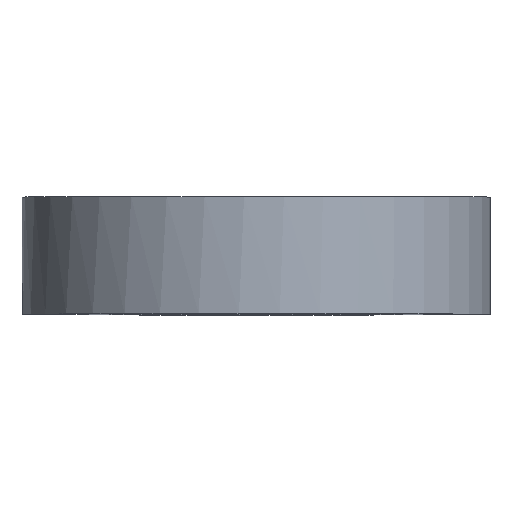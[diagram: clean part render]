
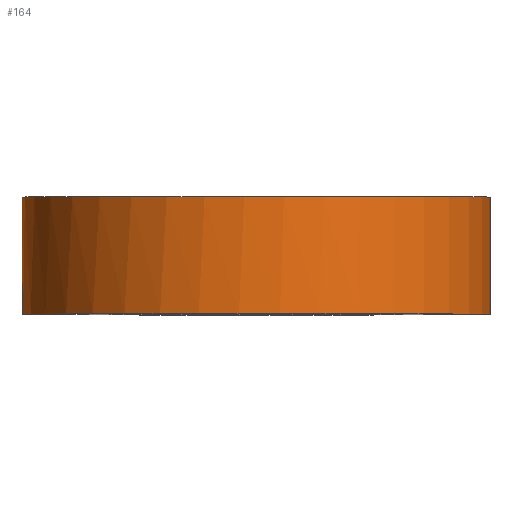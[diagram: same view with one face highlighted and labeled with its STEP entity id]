
A CAD part, top view. The second image highlights one B-rep face of the part: STEP entity #164.
In plain terms, the highlighted cylindrical face has radius 40 mm (diameter 80 mm), a full revolution.
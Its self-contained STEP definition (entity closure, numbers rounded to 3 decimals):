
#16=LINE('',#294,#23);
#17=LINE('',#297,#24);
#18=LINE('',#301,#25);
#23=VECTOR('',#238,10.);
#24=VECTOR('',#241,40.);
#25=VECTOR('',#244,10.);
#30=CYLINDRICAL_SURFACE('',#199,40.);
#39=FACE_OUTER_BOUND('',#49,.T.);
#49=EDGE_LOOP('',(#120,#121,#122,#123,#124,#125,#126,#127,#128));
#56=CIRCLE('',#191,40.);
#57=CIRCLE('',#192,40.);
#62=CIRCLE('',#200,40.);
#63=CIRCLE('',#201,40.);
#64=CIRCLE('',#202,40.);
#72=VERTEX_POINT('',#276);
#73=VERTEX_POINT('',#277);
#78=VERTEX_POINT('',#292);
#79=VERTEX_POINT('',#293);
#80=VERTEX_POINT('',#295);
#81=VERTEX_POINT('',#298);
#82=VERTEX_POINT('',#300);
#88=EDGE_CURVE('',#72,#73,#56,.T.);
#89=EDGE_CURVE('',#73,#72,#57,.T.);
#95=EDGE_CURVE('',#78,#79,#16,.T.);
#96=EDGE_CURVE('',#80,#79,#62,.T.);
#97=EDGE_CURVE('',#80,#73,#17,.T.);
#98=EDGE_CURVE('',#81,#80,#63,.T.);
#99=EDGE_CURVE('',#82,#81,#18,.T.);
#100=EDGE_CURVE('',#78,#82,#64,.T.);
#120=ORIENTED_EDGE('',*,*,#95,.T.);
#121=ORIENTED_EDGE('',*,*,#96,.F.);
#122=ORIENTED_EDGE('',*,*,#97,.T.);
#123=ORIENTED_EDGE('',*,*,#88,.F.);
#124=ORIENTED_EDGE('',*,*,#89,.F.);
#125=ORIENTED_EDGE('',*,*,#97,.F.);
#126=ORIENTED_EDGE('',*,*,#98,.F.);
#127=ORIENTED_EDGE('',*,*,#99,.F.);
#128=ORIENTED_EDGE('',*,*,#100,.F.);
#164=ADVANCED_FACE('',(#39),#30,.T.);
#191=AXIS2_PLACEMENT_3D('',#278,#219,#220);
#192=AXIS2_PLACEMENT_3D('',#279,#221,#222);
#199=AXIS2_PLACEMENT_3D('',#291,#236,#237);
#200=AXIS2_PLACEMENT_3D('',#296,#239,#240);
#201=AXIS2_PLACEMENT_3D('',#299,#242,#243);
#202=AXIS2_PLACEMENT_3D('',#302,#245,#246);
#219=DIRECTION('center_axis',(0.,1.,0.));
#220=DIRECTION('ref_axis',(-1.,0.,0.));
#221=DIRECTION('center_axis',(0.,1.,0.));
#222=DIRECTION('ref_axis',(-1.,0.,0.));
#236=DIRECTION('center_axis',(0.,-1.,0.));
#237=DIRECTION('ref_axis',(-0.717,0.,-0.698));
#238=DIRECTION('',(0.,-1.,0.));
#239=DIRECTION('center_axis',(0.,-1.,0.));
#240=DIRECTION('ref_axis',(-0.717,0.,-0.698));
#241=DIRECTION('',(0.,1.,0.));
#242=DIRECTION('center_axis',(0.,-1.,0.));
#243=DIRECTION('ref_axis',(-0.717,0.,-0.698));
#244=DIRECTION('',(0.,-1.,0.));
#245=DIRECTION('center_axis',(0.,-1.,0.));
#246=DIRECTION('ref_axis',(-1.,0.,0.));
#276=CARTESIAN_POINT('',(24.39,10.,-31.704));
#277=CARTESIAN_POINT('',(28.662,10.,27.901));
#278=CARTESIAN_POINT('Origin',(0.,10.,0.));
#279=CARTESIAN_POINT('Origin',(0.,10.,0.));
#291=CARTESIAN_POINT('Origin',(0.,0.,0.));
#292=CARTESIAN_POINT('',(-28.662,0.,-27.901));
#293=CARTESIAN_POINT('',(-28.662,-10.,-27.901));
#294=CARTESIAN_POINT('',(-28.662,0.,-27.901));
#295=CARTESIAN_POINT('',(28.662,-10.,27.901));
#296=CARTESIAN_POINT('Origin',(0.,-10.,0.));
#297=CARTESIAN_POINT('',(28.662,0.,27.901));
#298=CARTESIAN_POINT('',(24.39,-10.,-31.704));
#299=CARTESIAN_POINT('Origin',(0.,-10.,0.));
#300=CARTESIAN_POINT('',(24.39,0.,-31.704));
#301=CARTESIAN_POINT('',(24.39,0.,-31.704));
#302=CARTESIAN_POINT('Origin',(0.,0.,0.));
